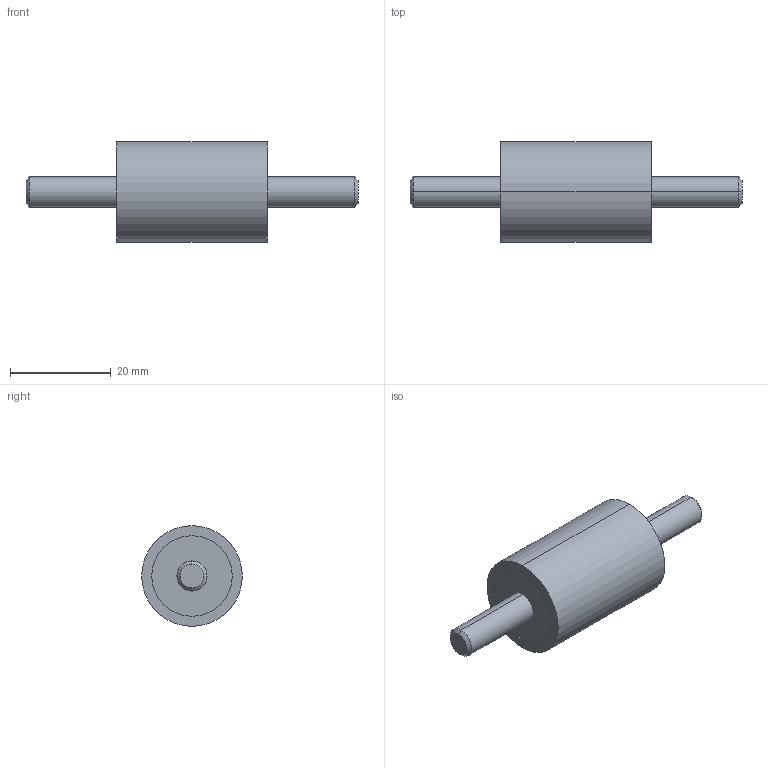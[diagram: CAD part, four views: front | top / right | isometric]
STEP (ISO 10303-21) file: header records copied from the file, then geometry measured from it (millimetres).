
FILE_DESCRIPTION (( 'STEP AP214' ), '1' );
FILE_NAME ('351-20-30-M6-SS-40.step', '2025-07-23T10:01:01', ( '' ), ( '' ), 'SwSTEP 2.0', 'SolidWorks 2022', '' );
FILE_SCHEMA (( 'AUTOMOTIVE_DESIGN' ));
Length unit declared in the file: millimetre
Products named in the file (1): 351-20-30-M6-SS-40
Bounding box: 66 x 20 x 20 mm (x, y, z)
Volume: 10431.8 mm3; surface area: 3177.8 mm2
Topology: 1 solids, 1 shells, 20 faces, 38 edges, 24 vertices
Faces by surface type: cylinder 10, plane 6, cone 4
Entity records: 636 total; most frequent: DIRECTION 104, CARTESIAN_POINT 83, ORIENTED_EDGE 76, AXIS2_PLACEMENT_3D 45, EDGE_CURVE 38, CIRCLE 24, VERTEX_POINT 24, EDGE_LOOP 24
